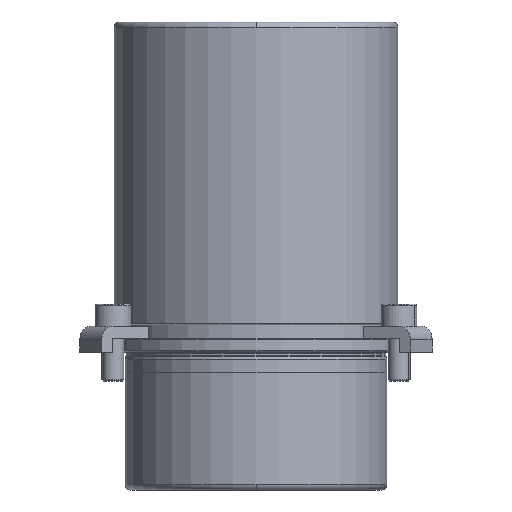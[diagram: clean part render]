
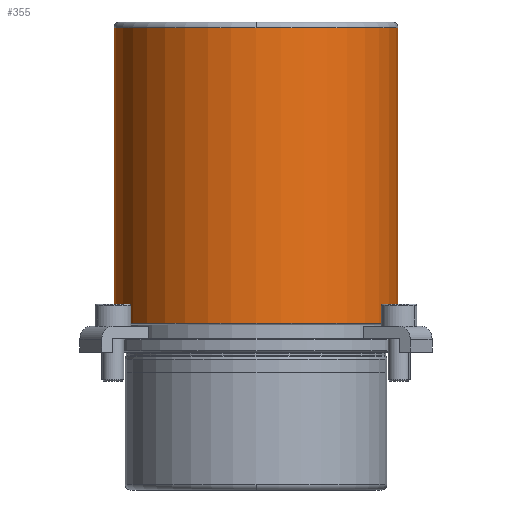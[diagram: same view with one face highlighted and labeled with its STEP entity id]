
A CAD part, front view. The second image highlights one B-rep face of the part: STEP entity #355.
In plain terms, the highlighted cylindrical face has radius 51.5 mm (diameter 103 mm), a partial arc.
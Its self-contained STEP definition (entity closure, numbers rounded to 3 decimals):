
#269=CARTESIAN_POINT('',(0.0,-51.5,118.));
#270=VERTEX_POINT('',#269);
#296=CARTESIAN_POINT('',(-51.5,0.,118.));
#297=VERTEX_POINT('',#296);
#305=CARTESIAN_POINT('',(0.0,0.,118.));
#306=DIRECTION('',(0.0,0.0,1.0));
#307=DIRECTION('',(1.0,0.0,0.0));
#308=AXIS2_PLACEMENT_3D('',#305,#306,#307);
#309=CIRCLE('',#308,51.5);
#310=EDGE_CURVE('',#297,#270,#309,.T.);
#315=CARTESIAN_POINT('',(0.0,0.,64.25));
#316=DIRECTION('',(0.0,0.,1.0));
#317=DIRECTION('',(1.0,0.0,0.0));
#318=AXIS2_PLACEMENT_3D('',#315,#316,#317);
#319=CYLINDRICAL_SURFACE('',#318,51.5);
#320=CARTESIAN_POINT('',(51.5,0.,118.));
#321=VERTEX_POINT('',#320);
#322=CARTESIAN_POINT('',(51.5,0.,10.5));
#323=VERTEX_POINT('',#322);
#324=CARTESIAN_POINT('',(51.5,0.,118.));
#325=DIRECTION('',(0.0,0.0,-1.0));
#326=VECTOR('',#325,107.5);
#327=LINE('',#324,#326);
#328=EDGE_CURVE('',#321,#323,#327,.T.);
#329=ORIENTED_EDGE('',*,*,#328,.F.);
#330=CARTESIAN_POINT('',(0.0,0.,118.));
#331=DIRECTION('',(0.0,0.0,1.0));
#332=DIRECTION('',(1.0,0.0,0.0));
#333=AXIS2_PLACEMENT_3D('',#330,#331,#332);
#334=CIRCLE('',#333,51.5);
#335=EDGE_CURVE('',#270,#321,#334,.T.);
#336=ORIENTED_EDGE('',*,*,#335,.F.);
#337=ORIENTED_EDGE('',*,*,#310,.F.);
#338=CARTESIAN_POINT('',(-51.5,0.,10.5));
#339=VERTEX_POINT('',#338);
#340=CARTESIAN_POINT('',(-51.5,0.,118.));
#341=DIRECTION('',(0.0,0.0,-1.0));
#342=VECTOR('',#341,107.5);
#343=LINE('',#340,#342);
#344=EDGE_CURVE('',#297,#339,#343,.T.);
#345=ORIENTED_EDGE('',*,*,#344,.T.);
#346=CARTESIAN_POINT('',(0.0,0.,10.5));
#347=DIRECTION('',(0.0,0.0,1.0));
#348=DIRECTION('',(1.0,0.0,0.0));
#349=AXIS2_PLACEMENT_3D('',#346,#347,#348);
#350=CIRCLE('',#349,51.5);
#351=EDGE_CURVE('',#339,#323,#350,.T.);
#352=ORIENTED_EDGE('',*,*,#351,.T.);
#353=EDGE_LOOP('',(#329,#336,#337,#345,#352));
#354=FACE_OUTER_BOUND('',#353,.T.);
#355=ADVANCED_FACE('',(#354),#319,.T.);
